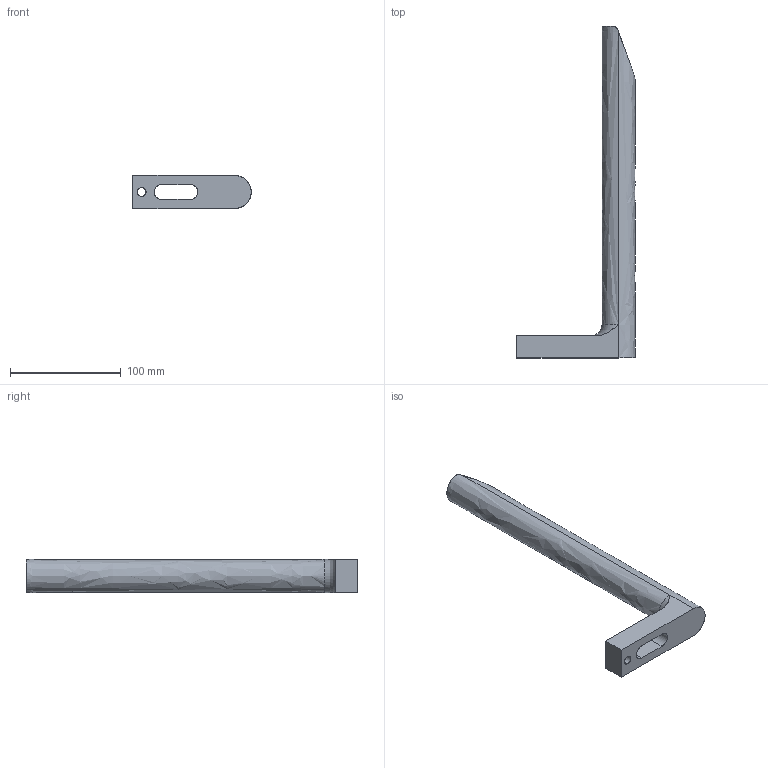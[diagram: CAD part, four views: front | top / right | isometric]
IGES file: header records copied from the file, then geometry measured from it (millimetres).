
Start section: START RECORD GO HERE.
Global section: file name: 702-8.igs; native system: DASSAULT SYSTEMES CATIA V5 R20 - www.3ds.com; preprocessor: CATIA Version 5 Release 20 ; author: Utente; organization: NB04-ASUS; date: 20200410.173342; units: millimetre
Bounding box: 107 x 300 x 30 mm (x, y, z)
Surface area: 38299.6 mm2 (no closed solid volume)
Topology: 0 solids, 0 shells, 18 faces, 95 edges, 95 vertices
Faces by surface type: revolution 9, extrusion 9
